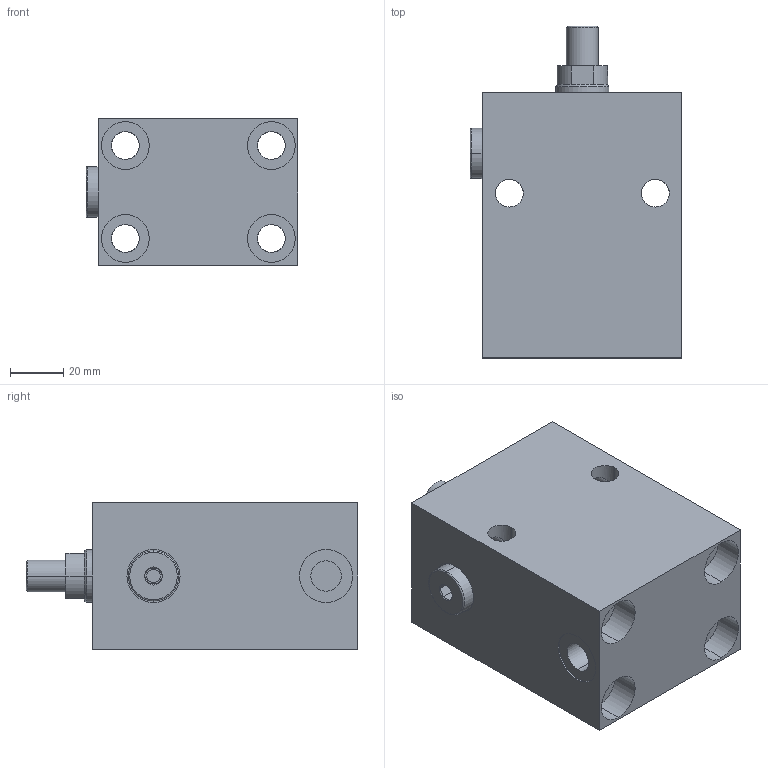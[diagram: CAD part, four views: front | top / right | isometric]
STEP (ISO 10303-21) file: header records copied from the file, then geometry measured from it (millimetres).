
FILE_DESCRIPTION (( 'STEP AP203' ), '1' );
FILE_NAME ('GERMA_Blockzylinder_650-032-020-A.STEP', '2023-08-26T14:47:34', ( '' ), ( '' ), 'SwSTEP 2.0', 'SolidWorks 2016', '' );
FILE_SCHEMA (( 'CONFIG_CONTROL_DESIGN' ));
Length unit declared in the file: millimetre
Products named in the file (3): GH-600-032-ew_GH-650-032-020; GERMA_Blockzylinder_650-032-020-A; Kolben 60x-032_Kolben DU.32-Hub50-AG
Assembly tree (2 placements, depth 2):
  GERMA_Blockzylinder_650-032-020-A
    GH-600-032-ew_GH-650-032-020
    Kolben 60x-032_Kolben DU.32-Hub50-AG
Bounding box: 79.8 x 125 x 55 mm (x, y, z)
Volume: 348592.2 mm3; surface area: 68428 mm2
Topology: 2 solids, 2 shells, 135 faces, 313 edges, 193 vertices
Faces by surface type: cylinder 75, plane 39, cone 19, torus 2
Entity records: 4205 total; most frequent: CARTESIAN_POINT 801, DIRECTION 690, ORIENTED_EDGE 618, EDGE_CURVE 309, AXIS2_PLACEMENT_3D 280, VERTEX_POINT 193, EDGE_LOOP 170, CIRCLE 140
